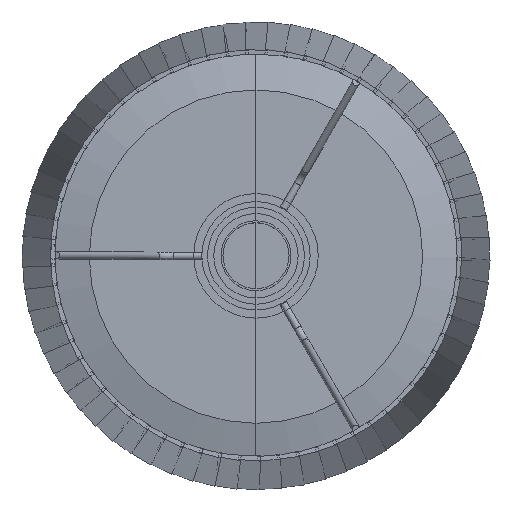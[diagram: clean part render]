
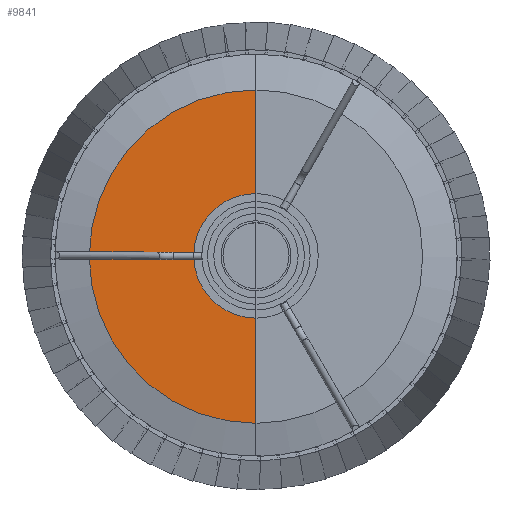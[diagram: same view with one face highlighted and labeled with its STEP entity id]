
A CAD part, top view. The second image highlights one B-rep face of the part: STEP entity #9841.
In plain terms, the highlighted planar face has unit normal (0, 0, 1).
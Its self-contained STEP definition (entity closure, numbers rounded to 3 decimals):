
#307=FACE_OUTER_BOUND('',#945,.T.);
#945=EDGE_LOOP('',(#6546,#6547,#6548,#6549));
#1578=LINE('',#14210,#2848);
#1579=LINE('',#14211,#2849);
#2848=VECTOR('',#11347,304.8);
#2849=VECTOR('',#11348,304.8);
#4111=CIRCLE('',#10555,89.432);
#4115=CIRCLE('',#10567,9.972);
#4198=VERTEX_POINT('',#14178);
#4199=VERTEX_POINT('',#14180);
#4202=VERTEX_POINT('',#14200);
#4203=VERTEX_POINT('',#14201);
#5106=EDGE_CURVE('',#4198,#4199,#4111,.T.);
#5117=EDGE_CURVE('',#4203,#4202,#4115,.T.);
#5118=EDGE_CURVE('',#4202,#4198,#1578,.T.);
#5119=EDGE_CURVE('',#4199,#4203,#1579,.T.);
#6546=ORIENTED_EDGE('',*,*,#5106,.T.);
#6547=ORIENTED_EDGE('',*,*,#5119,.T.);
#6548=ORIENTED_EDGE('',*,*,#5117,.T.);
#6549=ORIENTED_EDGE('',*,*,#5118,.T.);
#9257=PLANE('',#10569);
#9841=ADVANCED_FACE('',(#307),#9257,.T.);
#10555=AXIS2_PLACEMENT_3D('',#14185,#11312,#11313);
#10567=AXIS2_PLACEMENT_3D('',#14208,#11343,#11344);
#10569=AXIS2_PLACEMENT_3D('',#14212,#11349,#11350);
#11312=DIRECTION('center_axis',(0.,0.,1.));
#11313=DIRECTION('ref_axis',(-0.588,0.809,0.));
#11343=DIRECTION('center_axis',(0.,0.,-1.));
#11344=DIRECTION('ref_axis',(0.,1.,0.));
#11347=DIRECTION('',(0.,1.,0.));
#11348=DIRECTION('',(0.,1.,0.));
#11349=DIRECTION('center_axis',(0.,0.,1.));
#11350=DIRECTION('ref_axis',(0.,1.,0.));
#14178=CARTESIAN_POINT('',(0.,89.432,6.331));
#14180=CARTESIAN_POINT('',(0.,-89.432,6.331));
#14185=CARTESIAN_POINT('Origin',(0.,0.,
6.331));
#14200=CARTESIAN_POINT('',(0.,9.972,6.331));
#14201=CARTESIAN_POINT('',(0.,-9.972,6.331));
#14208=CARTESIAN_POINT('Origin',(0.,0.,6.331));
#14210=CARTESIAN_POINT('',(0.,9.972,6.331));
#14211=CARTESIAN_POINT('',(0.,-89.432,6.331));
#14212=CARTESIAN_POINT('Origin',(0.,0.,6.331));
